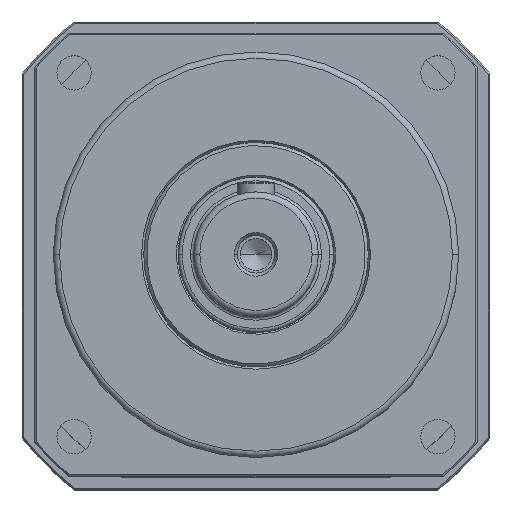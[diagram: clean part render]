
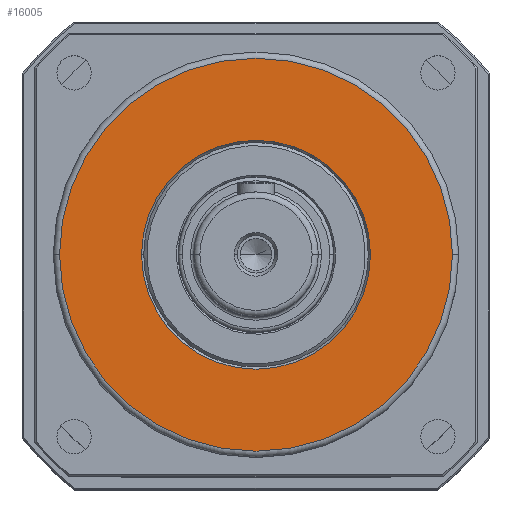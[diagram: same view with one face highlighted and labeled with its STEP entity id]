
A CAD part, top view. The second image highlights one B-rep face of the part: STEP entity #16005.
In plain terms, the highlighted planar face has unit normal (0, 0, 1).
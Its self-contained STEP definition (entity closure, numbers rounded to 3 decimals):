
#929 = AXIS2_PLACEMENT_3D ( 'NONE', #21673, #19434, #2165 ) ;
#1251 = CARTESIAN_POINT ( 'NONE',  ( 63., 0., 15. ) ) ;
#2108 = CIRCLE ( 'NONE', #929, 36.7 ) ;
#2165 = DIRECTION ( 'NONE',  ( 1., 0., 0. ) ) ;
#3806 = CARTESIAN_POINT ( 'NONE',  ( -63., 0., 15. ) ) ;
#4181 = CIRCLE ( 'NONE', #13367, 63. ) ;
#4517 = ORIENTED_EDGE ( 'NONE', *, *, #22425, .T. ) ;
#4522 = ORIENTED_EDGE ( 'NONE', *, *, #15927, .T. ) ;
#4888 = EDGE_LOOP ( 'NONE', ( #4517, #6248 ) ) ;
#5307 = DIRECTION ( 'NONE',  ( 0., 0., 1. ) ) ;
#5915 = FACE_OUTER_BOUND ( 'NONE', #6622, .T. ) ;
#5954 = CIRCLE ( 'NONE', #21531, 63. ) ;
#6065 = CARTESIAN_POINT ( 'NONE',  ( 0., 0., 15. ) ) ;
#6248 = ORIENTED_EDGE ( 'NONE', *, *, #19583, .T. ) ;
#6622 = EDGE_LOOP ( 'NONE', ( #17245, #4522 ) ) ;
#7222 = DIRECTION ( 'NONE',  ( 0., 0., -1. ) ) ;
#9221 = DIRECTION ( 'NONE',  ( 1., 0., 0. ) ) ;
#9550 = FACE_BOUND ( 'NONE', #4888, .T. ) ;
#10605 = CARTESIAN_POINT ( 'NONE',  ( 0., 0., 15. ) ) ;
#10625 = CARTESIAN_POINT ( 'NONE',  ( 36.7, 0., 15. ) ) ;
#12947 = DIRECTION ( 'NONE',  ( 1., 0., 0. ) ) ;
#13116 = CARTESIAN_POINT ( 'NONE',  ( -36.7, 0., 15. ) ) ;
#13367 = AXIS2_PLACEMENT_3D ( 'NONE', #13431, #22679, #21046 ) ;
#13431 = CARTESIAN_POINT ( 'NONE',  ( 0., 0., 15. ) ) ;
#14712 = EDGE_CURVE ( 'NONE', #23590, #21334, #4181, .T. ) ;
#14983 = AXIS2_PLACEMENT_3D ( 'NONE', #6065, #7222, #9221 ) ;
#15316 = CARTESIAN_POINT ( 'NONE',  ( 0., 0., 15. ) ) ;
#15563 = PLANE ( 'NONE',  #20328 ) ;
#15927 = EDGE_CURVE ( 'NONE', #21334, #23590, #5954, .T. ) ;
#16005 = ADVANCED_FACE ( 'NONE', ( #9550, #5915 ), #15563, .T. ) ;
#17245 = ORIENTED_EDGE ( 'NONE', *, *, #14712, .T. ) ;
#17422 = VERTEX_POINT ( 'NONE', #13116 ) ;
#18558 = VERTEX_POINT ( 'NONE', #10625 ) ;
#18568 = CIRCLE ( 'NONE', #14983, 36.7 ) ;
#19434 = DIRECTION ( 'NONE',  ( 0., 0., -1. ) ) ;
#19583 = EDGE_CURVE ( 'NONE', #17422, #18558, #2108, .T. ) ;
#20328 = AXIS2_PLACEMENT_3D ( 'NONE', #15316, #21179, #21300 ) ;
#21046 = DIRECTION ( 'NONE',  ( 1., 0., 0. ) ) ;
#21179 = DIRECTION ( 'NONE',  ( 0., 0., 1. ) ) ;
#21300 = DIRECTION ( 'NONE',  ( 1., 0., 0. ) ) ;
#21334 = VERTEX_POINT ( 'NONE', #3806 ) ;
#21531 = AXIS2_PLACEMENT_3D ( 'NONE', #10605, #5307, #12947 ) ;
#21673 = CARTESIAN_POINT ( 'NONE',  ( 0., 0., 15. ) ) ;
#22425 = EDGE_CURVE ( 'NONE', #18558, #17422, #18568, .T. ) ;
#22679 = DIRECTION ( 'NONE',  ( 0., 0., 1. ) ) ;
#23590 = VERTEX_POINT ( 'NONE', #1251 ) ;
